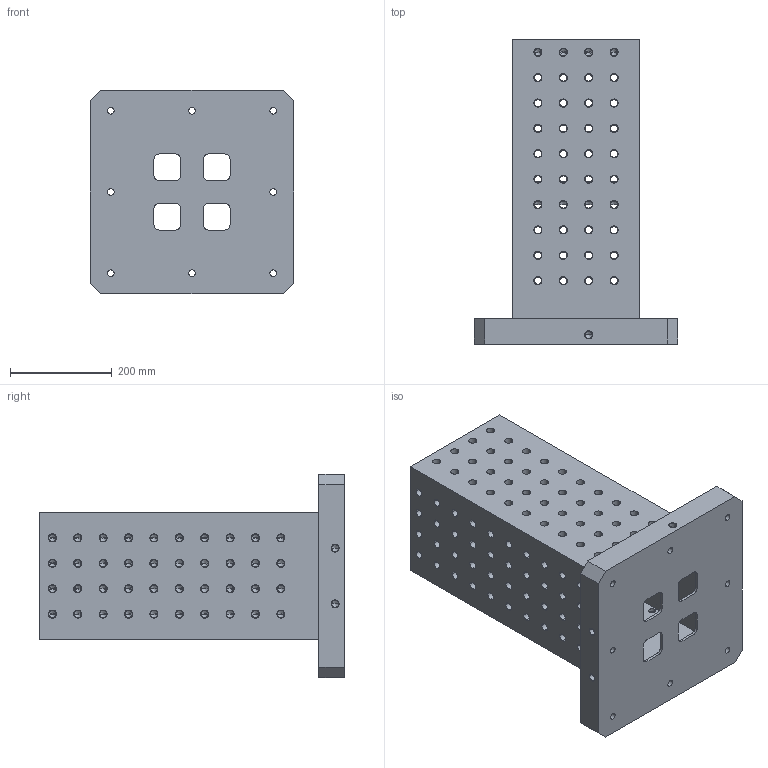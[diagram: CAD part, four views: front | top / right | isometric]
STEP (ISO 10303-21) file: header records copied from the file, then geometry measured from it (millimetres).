
FILE_DESCRIPTION((''),'2;1');
FILE_NAME('FG_WH_TOMB_SQG16NP002','2026-05-19T14:59:32',('Admin'),(''),'CREO PARAMETRIC BY PTC INC, 2025010','CREO PARAMETRIC BY PTC INC, 2025010','');
FILE_SCHEMA(('CONFIG_CONTROL_DESIGN'));
Length unit declared in the file: millimetre
Products named in the file (1): FG_WH_TOMB_SQG16NP002
Bounding box: 400 x 600 x 400 mm (x, y, z)
Volume: 25567352.6 mm3; surface area: 1969750.6 mm2
Topology: 1 solids, 165 shells, 1646 faces, 4272 edges, 2851 vertices
Faces by surface type: cylinder 1040, plane 408, cone 198
Entity records: 50721 total; most frequent: DIRECTION 9952, CARTESIAN_POINT 8700, ORIENTED_EDGE 7348, AXIS2_PLACEMENT_3D 4231, EDGE_CURVE 4082, VERTEX_POINT 2851, CIRCLE 2584, EDGE_LOOP 2239
